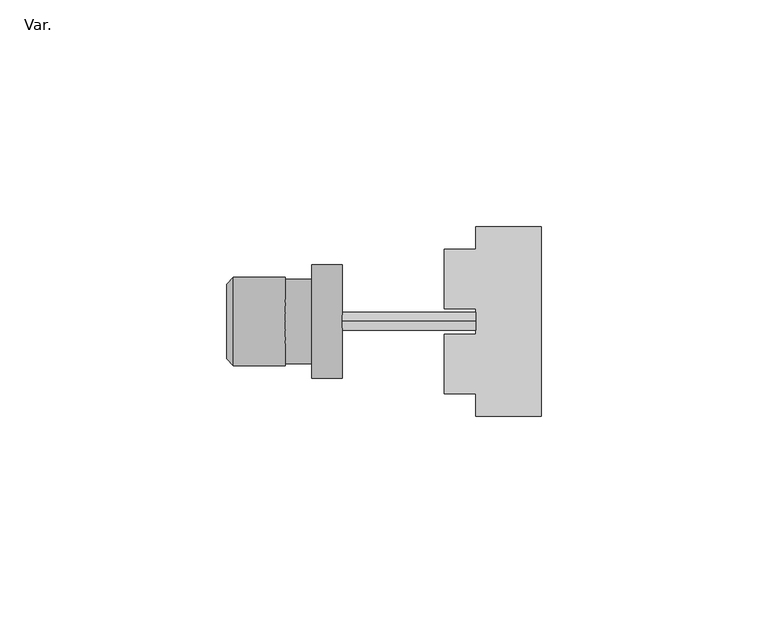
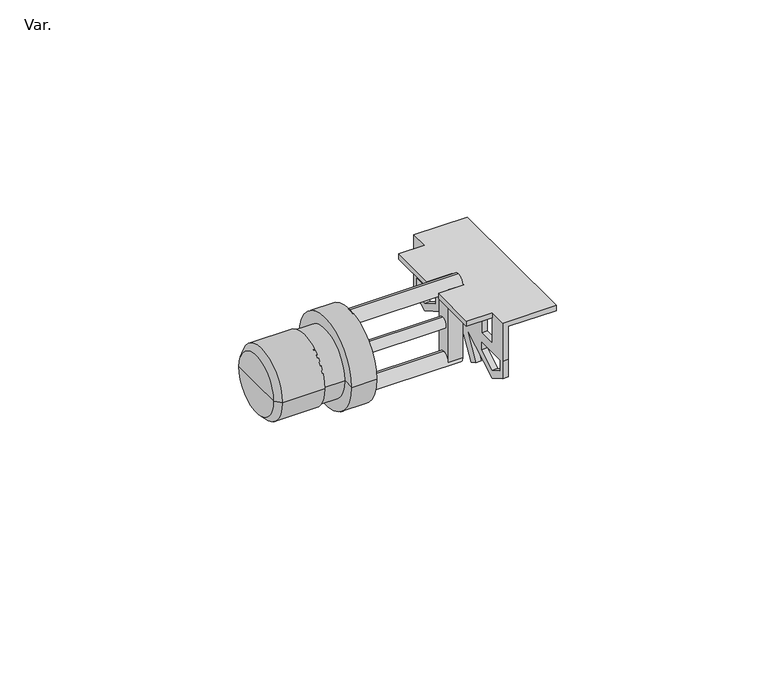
"""IFC4 building model written with IfcOpenShell, lengths in millimetres: pipe fitting geometry, Rociadores_ContraincendiosRociadorLateral : Var.."""

from ifc_helpers import new_model, si_unit, point, frame, origin, origin_2d, place, context, project, spatial, polyline, circle_curve, trimmed, segment, composite_curve, outline, extrude, faceted_brep, source, transform, mapped, element, save
from ifc_brep_helpers import plane_surface, cylinder_surface, revolved_surface, advanced_brep


def var_a1ba459a(model_context):
    return source(origin(), model_context, "Body", "SolidModel", [
        advanced_brep(
        [(55.0, 0.0, 12.4454107), (55.0, -2.0, 10.4454107), (55.0, -2.0, -10.4454107), (55.0, 0.0, -12.4454107), (55.0, 2.0, -10.4454107), (55.0, 2.0, 10.4454107), (25.5, 0.0, 12.4454107), (25.5, 0.0, 8.4454107), (25.5, 0.0, -8.4454107), (25.5, 0.0, -12.4454107), (51.0, 0.0, 8.4454107), (51.0, -2.0, 10.4454107), (51.0, 2.0, 10.4454107), (51.0, -2.0, -10.4454107), (51.0, 0.0, -8.4454107), (51.0, 2.0, -10.4454107)],
        [
            (0, 1, circle_curve(frame((55.0, 0.0, 10.4454107), z_axis=(1.0, 0.0, 0.0), x_axis=(0.0, 0.0, -1.0)), 2.0)),
            (1, 2),
            (2, 3, circle_curve(frame((55.0, 0.0, -10.4454107), z_axis=(1.0, 0.0, 0.0), x_axis=(0.0, 0.0, -1.0)), 2.0)),
            (3, 4, circle_curve(frame((55.0, 0.0, -10.4454107), z_axis=(1.0, 0.0, 0.0), x_axis=(0.0, 0.0, -1.0)), 2.0)),
            (4, 5),
            (5, 0, circle_curve(frame((55.0, 0.0, 10.4454107), z_axis=(1.0, 0.0, 0.0), x_axis=(0.0, 0.0, -1.0)), 2.0)),
            (6, 7, circle_curve(frame((25.5, 0.0, 10.4454107), z_axis=(-1.0, 0.0, 0.0), x_axis=(0.0, 0.0, -1.0)), 2.0)),
            (7, 6, circle_curve(frame((25.5, 0.0, 10.4454107), z_axis=(-1.0, 0.0, 0.0), x_axis=(0.0, 0.0, -1.0)), 2.0)),
            (8, 9, circle_curve(frame((25.5, 0.0, -10.4454107), z_axis=(-1.0, 0.0, 0.0), x_axis=(0.0, 0.0, -1.0)), 2.0)),
            (9, 8, circle_curve(frame((25.5, 0.0, -10.4454107), z_axis=(-1.0, 0.0, 0.0), x_axis=(0.0, 0.0, -1.0)), 2.0)),
            (7, 10),
            (10, 11, circle_curve(frame((51.0, 0.0, 10.4454107), z_axis=(-1.0, 0.0, 0.0), x_axis=(0.0, 0.0, -1.0)), 2.0)),
            (11, 1),
            (0, 6),
            (5, 12),
            (12, 10, circle_curve(frame((51.0, 0.0, 10.4454107), z_axis=(-1.0, 0.0, 0.0), x_axis=(0.0, 0.0, -1.0)), 2.0)),
            (9, 3),
            (2, 13),
            (13, 14, circle_curve(frame((51.0, 0.0, -10.4454107), z_axis=(-1.0, 0.0, 0.0), x_axis=(0.0, 0.0, -1.0)), 2.0)),
            (14, 8),
            (14, 15, circle_curve(frame((51.0, 0.0, -10.4454107), z_axis=(-1.0, 0.0, 0.0), x_axis=(0.0, 0.0, -1.0)), 2.0)),
            (15, 4),
            (12, 15),
            (13, 11),
        ],
        [
            plane_surface(frame((55.0, 0.0, 8.4454107), z_axis=(1.0, 0.0, 0.0), x_axis=(0.0, 1.0, 0.0))),
            plane_surface(frame((25.5, 0.0, 8.4454107), z_axis=(-1.0, 0.0, 0.0), x_axis=(0.0, -1.0, 0.0))),
            cylinder_surface(frame((25.5, 0.0, 10.4454107), z_axis=(1.0, 0.0, 0.0), x_axis=(0.0, 0.0, -1.0)), 2.0),
            cylinder_surface(frame((25.5, 0.0, -10.4454107), z_axis=(1.0, 0.0, 0.0), x_axis=(0.0, 0.0, -1.0)), 2.0),
            plane_surface(frame((51.0, -2.0, 10.4454107), z_axis=(-1.0, 0.0, 0.0), x_axis=(0.0, 1.0, 0.0))),
            plane_surface(frame((55.0, -2.0, 10.4454107), z_axis=(0.0, -1.0, 0.0), x_axis=(-1.0, 0.0, 0.0))),
            plane_surface(frame((55.0, 2.0, -10.4454107), z_axis=(0.0, 1.0, 0.0), x_axis=(-1.0, 0.0, 0.0))),
        ],
        [
            (0, [[1, 2, 3, 4, 5, 6]]),
            (1, [[7, 8]]),
            (1, [[9, 10]]),
            (2, [[-8, 11, 12, 13, -1, 14]]),
            (2, [[-7, -14, -6, 15, 16, -11]]),
            (3, [[-10, 17, -3, 18, 19, 20]]),
            (3, [[-9, -20, 21, 22, -4, -17]]),
            (4, [[23, -21, -19, 24, -12, -16]]),
            (5, [[-2, -13, -24, -18]]),
            (6, [[-5, -22, -23, -15]]),
        ],
    ),
        faceted_brep([(55.0, 15.9448264, 11.0), (48.0, 15.9448264, 11.0), (48.0, 2.8232051, 11.0), (55.0, 2.8232051, 11.0), (55.0, 0.0, 11.0), (55.0, -2.8232051, 11.0), (48.0, -2.8232051, 11.0), (48.0, -15.9448264, 11.0), (55.0, -15.9448264, 11.0), (55.0, -20.9448264, 11.0), (69.5, -20.9448264, 11.0), (69.5, 0.0, 11.0), (69.5, 20.9448264, 11.0), (55.0, 20.9448264, 11.0), (69.5, 20.9448264, 9.5), (69.5, 0.0, 9.5), (69.5, -20.9448264, 9.5), (56.5, -20.9448264, 9.5), (56.5, -15.9448264, 9.5), (55.0, -15.9448264, 9.5), (48.0, -15.9448264, 9.5), (48.0, -2.8232051, 9.5), (55.0, -2.8232051, 9.5), (55.0, 0.0, 9.5), (55.0, 2.8232051, 9.5), (48.0, 2.8232051, 9.5), (48.0, 15.9448264, 9.5), (55.0, 15.9448264, 9.5), (56.5, 15.9448264, 9.5), (56.5, 20.9448264, 9.5), (55.0, -15.9448264, 2.1561511), (55.0, -10.9448264, 2.1561511), (55.0, -10.9448264, 7.1561511), (55.0, 0.0, 7.1561511), (55.0, 10.9448264, 7.1561511), (55.0, 10.9448264, 2.1561511), (55.0, 15.9448264, 2.1561511), (55.0, 20.9448264, 0.0), (55.0, 20.9448264, -5.0), (55.0, 15.9448264, -7.8867513), (55.0, 4.1205552, -1.0600052), (55.0, 8.1876531, -8.1044255), (55.0, 6.1010764, -9.3091111), (55.0, 2.6329276, -3.3021011), (55.0, 0.0, -3.3021011), (55.0, -2.6329276, -3.3021011), (55.0, -6.1010764, -9.3091111), (55.0, -8.1876531, -8.1044255), (55.0, -4.1205552, -1.0600052), (55.0, -15.9448264, -7.8867513), (55.0, -20.9448264, -5.0), (55.0, -20.9448264, 0.0), (55.0, -10.9448264, -2.7087265), (55.0, -10.9448264, -0.6222369), (55.0, -19.5135108, -0.6222369), (55.0, -19.5135108, -3.5350969), (55.0, -15.9448264, -5.5954778), (55.0, 10.9448264, -2.7087265), (55.0, 15.9448264, -5.5954778), (55.0, 19.5135108, -3.5350969), (55.0, 19.5135108, -0.6222369), (55.0, 10.9448264, -0.6222369), (56.5, -20.9448264, 0.0), (56.5, 20.9448264, 0.0), (56.5, -20.9448264, -5.0), (56.5, -15.9448264, -7.8867513), (56.5, -4.1205552, -1.0600052), (56.5, -8.1876531, -8.1044255), (56.5, -6.1010764, -9.3091111), (56.5, -2.6329276, -3.3021011), (56.5, 0.0, -3.3021011), (56.5, 2.6329276, -3.3021011), (56.5, 6.1010764, -9.3091111), (56.5, 8.1876531, -8.1044255), (56.5, 4.1205552, -1.0600052), (56.5, 15.9448264, -7.8867513), (56.5, 20.9448264, -5.0), (56.5, 15.9448264, 2.1561511), (56.5, 10.9448264, 2.1561511), (56.5, 10.9448264, 7.1561511), (56.5, 0.0, 7.1561511), (56.5, -10.9448264, 7.1561511), (56.5, -10.9448264, 2.1561511), (56.5, -15.9448264, 2.1561511), (56.5, -10.9448264, -2.7087265), (56.5, -15.9448264, -5.5954778), (56.5, -19.5135108, -3.5350969), (56.5, -19.5135108, -0.6222369), (56.5, -10.9448264, -0.6222369), (56.5, 10.9448264, -2.7087265), (56.5, 10.9448264, -0.6222369), (56.5, 19.5135108, -0.6222369), (56.5, 19.5135108, -3.5350969), (56.5, 15.9448264, -5.5954778)], [[[0, 1, 2, 3, 4, 5, 6, 7, 8, 9, 10, 11, 12, 13]], [[14, 15, 16, 17, 18, 19, 20, 21, 22, 23, 24, 25, 26, 27, 28, 29]], [[1, 0, 27, 26]], [[2, 1, 26, 25]], [[7, 6, 21, 20]], [[8, 7, 20, 19]], [[9, 8, 19, 30, 31, 32, 33, 34, 35, 36, 27, 0, 13, 37, 38, 39, 40, 41, 42, 43, 44, 45, 46, 47, 48, 49, 50, 51], [52, 53, 54, 55, 56], [57, 58, 59, 60, 61]], [[10, 9, 51, 62, 17, 16]], [[11, 10, 16, 15]], [[12, 11, 15, 14]], [[37, 13, 12, 14, 29, 63]], [[3, 2, 25, 24]], [[4, 3, 24, 23]], [[5, 4, 23, 22]], [[6, 5, 22, 21]], [[17, 62, 64, 65, 66, 67, 68, 69, 70, 71, 72, 73, 74, 75, 76, 63, 29, 28, 77, 78, 79, 80, 81, 82, 83, 18], [84, 85, 86, 87, 88], [89, 90, 91, 92, 93]], [[64, 62, 51, 50]], [[65, 64, 50, 49]], [[66, 65, 49, 48]], [[67, 66, 48, 47]], [[68, 67, 47, 46]], [[69, 68, 46, 45]], [[70, 69, 45, 44]], [[71, 70, 44, 43]], [[72, 71, 43, 42]], [[73, 72, 42, 41]], [[74, 73, 41, 40]], [[75, 74, 40, 39]], [[76, 75, 39, 38]], [[63, 76, 38, 37]], [[77, 28, 27, 36]], [[78, 77, 36, 35]], [[79, 78, 35, 34]], [[80, 79, 34, 33]], [[81, 80, 33, 32]], [[82, 81, 32, 31]], [[83, 82, 31, 30]], [[18, 83, 30, 19]], [[85, 84, 52, 56]], [[86, 85, 56, 55]], [[87, 86, 55, 54]], [[88, 87, 54, 53]], [[84, 88, 53, 52]], [[90, 89, 57, 61]], [[91, 90, 61, 60]], [[92, 91, 60, 59]], [[93, 92, 59, 58]], [[89, 93, 58, 57]]]),
        extrude(outline(composite_curve([segment(trimmed(circle_curve(origin_2d(), 1.5), [point((0.0, 1.5))], [point((0.0, -1.5))], False, "CARTESIAN"), True, "CONTINUOUS"), segment(trimmed(circle_curve(origin_2d(), 1.5), [point((0.0, -1.5))], [point((0.0, 1.5))], False, "CARTESIAN"), True, "CONTINUOUS")], self_intersect=False)), frame((25.5, 0.0, 0.0), z_axis=(1.0, 0.0, 0.0), x_axis=(0.0, 1.0, 0.0)), (0.0, 0.0, 1.0), 25.5),
        advanced_brep(
        [(25.5, -12.5, 0.0), (25.5, 12.5, 0.0), (25.5, 0.0, 0.0), (18.8, -12.5, 0.0), (18.8, 12.5, 0.0), (18.8, -9.3, 0.0), (18.8, 9.3, 0.0), (13.0, -9.3, 0.0), (13.0, 9.3, 0.0), (13.0, 0.0, 0.0)],
        [
            (0, 1, circle_curve(frame((25.5, 0.0, 0.0), z_axis=(1.0, 0.0, 0.0), x_axis=(0.0, 1.0, 0.0)), 12.5)),
            (1, 2),
            (2, 0),
            (1, 0, circle_curve(frame((25.5, 0.0, 0.0), z_axis=(1.0, 0.0, 0.0), x_axis=(0.0, 1.0, 0.0)), 12.5)),
            (3, 4, circle_curve(frame((18.8, 0.0, 0.0), z_axis=(1.0, 0.0, 0.0), x_axis=(0.0, 1.0, 0.0)), 12.5)),
            (4, 1),
            (0, 3),
            (4, 3, circle_curve(frame((18.8, 0.0, 0.0), z_axis=(1.0, 0.0, 0.0), x_axis=(0.0, 1.0, 0.0)), 12.5)),
            (5, 6, circle_curve(frame((18.8, 0.0, 0.0), z_axis=(1.0, 0.0, 0.0), x_axis=(0.0, 1.0, 0.0)), 9.3)),
            (6, 4),
            (3, 5),
            (6, 5, circle_curve(frame((18.8, 0.0, 0.0), z_axis=(1.0, 0.0, 0.0), x_axis=(0.0, 1.0, 0.0)), 9.3)),
            (7, 8, circle_curve(frame((13.0, 0.0, 0.0), z_axis=(1.0, 0.0, 0.0), x_axis=(0.0, 1.0, 0.0)), 9.3)),
            (8, 6),
            (5, 7),
            (8, 7, circle_curve(frame((13.0, 0.0, 0.0), z_axis=(1.0, 0.0, 0.0), x_axis=(0.0, 1.0, 0.0)), 9.3)),
            (9, 8),
            (7, 9),
        ],
        [
            plane_surface(frame((25.5, 0.0, 0.0), z_axis=(1.0, 0.0, 0.0), x_axis=(0.0, 1.0, 0.0))),
            cylinder_surface(frame((2000.0, 0.0, 0.0), z_axis=(-1.0, 0.0, 0.0), x_axis=(0.0, 1.0, 0.0)), 12.5),
            plane_surface(frame((18.8, 0.0, 0.0), z_axis=(-1.0, 0.0, 0.0), x_axis=(0.0, 1.0, 0.0))),
            cylinder_surface(frame((2000.0, 0.0, 0.0), z_axis=(-1.0, 0.0, 0.0), x_axis=(0.0, 1.0, 0.0)), 9.3),
            plane_surface(frame((13.0, 0.0, 0.0), z_axis=(-1.0, 0.0, 0.0), x_axis=(0.0, 1.0, 0.0))),
        ],
        [
            (0, [[1, 2, 3]]),
            (0, [[4, -3, -2]]),
            (1, [[5, 6, -1, 7]]),
            (1, [[8, -7, -4, -6]]),
            (2, [[9, 10, -5, 11]]),
            (2, [[12, -11, -8, -10]]),
            (3, [[13, 14, -9, 15]]),
            (3, [[16, -15, -12, -14]]),
            (4, [[17, -13, 18]]),
            (4, [[-18, -16, -17]]),
        ],
    ),
        advanced_brep(
        [(13.0, -9.75, 0.0), (13.0, 9.75, 0.0), (13.0, 0.0, 0.0), (1.5, -9.75, 0.0), (1.5, 9.75, 0.0), (0.0, -8.25, 0.0), (0.0, 8.25, 0.0), (0.0, 0.0, 0.0)],
        [
            (0, 1, circle_curve(frame((13.0, 0.0, 0.0), z_axis=(1.0, 0.0, 0.0), x_axis=(0.0, 1.0, 0.0)), 9.75)),
            (1, 2),
            (2, 0),
            (1, 0, circle_curve(frame((13.0, 0.0, 0.0), z_axis=(1.0, 0.0, 0.0), x_axis=(0.0, 1.0, 0.0)), 9.75)),
            (3, 4, circle_curve(frame((1.5, 0.0, 0.0), z_axis=(1.0, 0.0, 0.0), x_axis=(0.0, 1.0, 0.0)), 9.75)),
            (4, 1),
            (0, 3),
            (4, 3, circle_curve(frame((1.5, 0.0, 0.0), z_axis=(1.0, 0.0, 0.0), x_axis=(0.0, 1.0, 0.0)), 9.75)),
            (5, 6, circle_curve(frame((0.0, 0.0, 0.0), z_axis=(1.0, 0.0, 0.0), x_axis=(0.0, 1.0, 0.0)), 8.25)),
            (6, 4),
            (3, 5),
            (6, 5, circle_curve(frame((0.0, 0.0, 0.0), z_axis=(1.0, 0.0, 0.0), x_axis=(0.0, 1.0, 0.0)), 8.25)),
            (7, 6),
            (5, 7),
        ],
        [
            plane_surface(frame((13.0, 0.0, 0.0), z_axis=(1.0, 0.0, 0.0), x_axis=(0.0, 1.0, 0.0))),
            cylinder_surface(frame((2000.0, 0.0, 0.0), z_axis=(-1.0, 0.0, 0.0), x_axis=(0.0, 1.0, 0.0)), 9.75),
            revolved_surface(polyline([(1.5, 9.75, 0.0), (0.0, 8.25, 0.0)]), (2000.0, 0.0, 0.0), (-1.0, 0.0, 0.0)),
            plane_surface(frame((0.0, 0.0, 0.0), z_axis=(-1.0, 0.0, 0.0), x_axis=(0.0, 1.0, 0.0))),
        ],
        [
            (0, [[1, 2, 3]]),
            (0, [[4, -3, -2]]),
            (1, [[5, 6, -1, 7]]),
            (1, [[8, -7, -4, -6]]),
            (2, [[9, 10, -5, 11]]),
            (2, [[12, -11, -8, -10]]),
            (3, [[13, -9, 14]]),
            (3, [[-14, -12, -13]]),
        ],
    ),
    ])


if __name__ == "__main__":
    model = new_model("IFC4")
    model_context = context("Model", 3, world=origin())
    ifc_project = project(units=[si_unit("LENGTHUNIT", "METRE", prefix="MILLI")], contexts=[model_context])
    site = spatial("IfcSite", under=ifc_project)
    building = spatial("IfcBuilding", under=site)
    placement = place(None, origin())
    var_shape = var_a1ba459a(model_context)
    element("IfcPipeFitting", 1, ObjectType="Rociadores_ContraincendiosRociadorLateral : Var.", at=placement, inside=building, context=model_context, shape_type="MappedRepresentation", body=[
        mapped(var_shape, transform((0.0, 0.0, 0.0), x_axis=(1.0, 0.0, 0.0), y_axis=(0.0, 1.0, 0.0), z_axis=(0.0, 0.0, 1.0))),
    ])
    save(model, "model.ifc")
